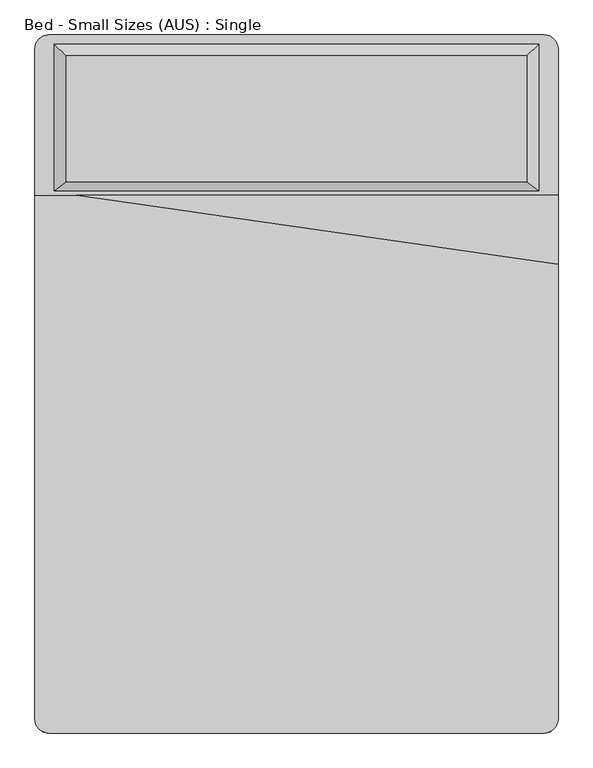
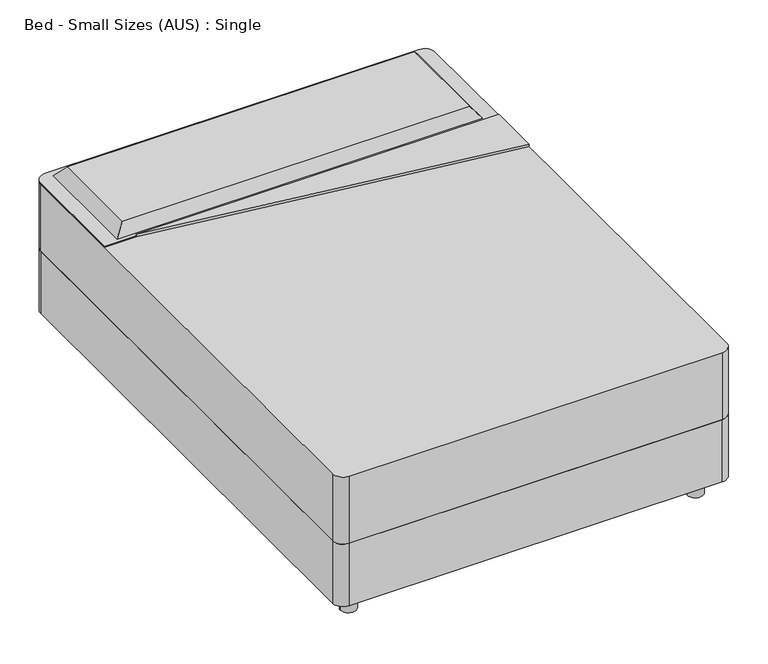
"""IFC4 building model written with IfcOpenShell, lengths in millimetres: furniture geometry, Bed - Small Sizes (AUS) : Single."""

from ifc_helpers import new_model, si_unit, point, frame, frame_2d, origin, origin_with_axes, place, context, project, spatial, polyline, circle_curve, trimmed, segment, composite_curve, outline, extrude, faceted_brep, source, transform, mapped, element, save


def bed_small_sizes_aus_single_3a526048(model_context):
    return source(origin(), model_context, "Body", "SolidModel", [
        faceted_brep([(637.3259905, -420.0, 650.0), (637.3259905, -60.0, 650.0), (-682.6740095, -60.0, 650.0), (-682.6740095, -420.0, 650.0), (672.4579512, -446.2118726, 605.0), (-717.5420488, -446.2118726, 605.0), (-717.5420488, -26.2118726, 605.0), (672.4579512, -26.2118726, 605.0)], [[[0, 1, 2, 3]], [[4, 5, 6, 7]], [[4, 7, 1, 0]], [[7, 6, 2, 1]], [[6, 5, 3, 2]], [[5, 4, 0, 3]]]),
        extrude(outline(composite_curve([segment(trimmed(circle_curve(frame_2d((-682.6740095, -90.0)), 30.0), [point((-712.6740095, -90.0))], [point((-652.6740095, -90.0))], False, "CARTESIAN"), True, "CONTINUOUS"), segment(trimmed(circle_curve(frame_2d((-682.6740095, -90.0)), 30.0), [point((-652.6740095, -90.0))], [point((-712.6740095, -90.0))], False, "CARTESIAN"), True, "CONTINUOUS")], self_intersect=False)), origin_with_axes(), (0.0, 0.0, 1.0), 80.0),
        extrude(outline(composite_curve([segment(trimmed(circle_curve(frame_2d((637.3259905, -90.0)), 30.0), [point((607.3259905, -90.0))], [point((667.3259905, -90.0))], False, "CARTESIAN"), True, "CONTINUOUS"), segment(trimmed(circle_curve(frame_2d((637.3259905, -90.0)), 30.0), [point((667.3259905, -90.0))], [point((607.3259905, -90.0))], False, "CARTESIAN"), True, "CONTINUOUS")], self_intersect=False)), origin_with_axes(), (0.0, 0.0, 1.0), 80.0),
        extrude(outline(composite_curve([segment(trimmed(circle_curve(frame_2d((-682.6740095, -1910.0)), 30.0), [point((-712.6740095, -1910.0))], [point((-652.6740095, -1910.0))], False, "CARTESIAN"), True, "CONTINUOUS"), segment(trimmed(circle_curve(frame_2d((-682.6740095, -1910.0)), 30.0), [point((-652.6740095, -1910.0))], [point((-712.6740095, -1910.0))], False, "CARTESIAN"), True, "CONTINUOUS")], self_intersect=False)), origin_with_axes(), (0.0, 0.0, 1.0), 80.0),
        extrude(outline(composite_curve([segment(trimmed(circle_curve(frame_2d((637.3259905, -1910.0)), 30.0), [point((607.3259905, -1910.0))], [point((667.3259905, -1910.0))], False, "CARTESIAN"), True, "CONTINUOUS"), segment(trimmed(circle_curve(frame_2d((637.3259905, -1910.0)), 30.0), [point((667.3259905, -1910.0))], [point((607.3259905, -1910.0))], False, "CARTESIAN"), True, "CONTINUOUS")], self_intersect=False)), origin_with_axes(), (0.0, 0.0, 1.0), 80.0),
        extrude(outline(composite_curve([segment(polyline([(687.3259905, -2000.0), (-732.6740095, -2000.0)]), True, "CONTINUOUS"), segment(trimmed(circle_curve(frame_2d((-732.6740095, -1960.0)), 40.0), [point((-732.6740095, -2000.0))], [point((-772.6740095, -1960.0))], False, "CARTESIAN"), True, "CONTINUOUS"), segment(polyline([(-772.6740095, -1960.0), (-772.6740095, -40.0)]), True, "CONTINUOUS"), segment(trimmed(circle_curve(frame_2d((-732.6740095, -40.0)), 40.0), [point((-772.6740095, -40.0))], [point((-732.6740095, 0.0))], False, "CARTESIAN"), True, "CONTINUOUS"), segment(polyline([(-732.6740095, 0.0), (687.3259905, 0.0)]), True, "CONTINUOUS"), segment(trimmed(circle_curve(frame_2d((687.3259905, -40.0)), 40.0), [point((687.3259905, 0.0))], [point((727.3259905, -40.0))], False, "CARTESIAN"), True, "CONTINUOUS"), segment(polyline([(727.3259905, -40.0), (727.3259905, -1960.0)]), True, "CONTINUOUS"), segment(trimmed(circle_curve(frame_2d((687.3259905, -1960.0)), 40.0), [point((727.3259905, -1960.0))], [point((687.3259905, -2000.0))], False, "CARTESIAN"), True, "CONTINUOUS")], self_intersect=False)), frame((0.0, 0.0, 80.0), z_axis=(0.0, 0.0, 1.0), x_axis=(1.0, 0.0, 0.0)), (0.0, 0.0, 1.0), 250.0),
        extrude(outline(composite_curve([segment(polyline([(727.3259905, -460.0), (-772.6740095, -460.0), (-772.6740095, -40.0)]), True, "CONTINUOUS"), segment(trimmed(circle_curve(frame_2d((-732.6740095, -40.0)), 40.0), [point((-772.6740095, -40.0))], [point((-732.6740095, 0.0))], False, "CARTESIAN"), True, "CONTINUOUS"), segment(polyline([(-732.6740095, 0.0), (687.3259905, 0.0)]), True, "CONTINUOUS"), segment(trimmed(circle_curve(frame_2d((687.3259905, -40.0)), 40.0), [point((687.3259905, 0.0))], [point((727.3259905, -40.0))], False, "CARTESIAN"), True, "CONTINUOUS"), segment(polyline([(727.3259905, -40.0), (727.3259905, -460.0)]), True, "CONTINUOUS")], self_intersect=False)), frame((0.0, 0.0, 600.0), z_axis=(0.0, 0.0, 1.0), x_axis=(1.0, 0.0, 0.0)), (0.0, 0.0, 1.0), 5.0),
        extrude(outline(polyline([(727.3259905, -460.0), (727.3259905, -657.6776024), (-652.6740095, -460.0), (727.3259905, -460.0)])), frame((0.0, 0.0, 600.0), z_axis=(0.0, 0.0, 1.0), x_axis=(1.0, 0.0, 0.0)), (0.0, 0.0, 1.0), 10.0),
        extrude(outline(composite_curve([segment(trimmed(circle_curve(frame_2d((-732.6740095, -40.0)), 40.0), [point((-772.6740095, -40.0))], [point((-732.6740095, 0.0))], False, "CARTESIAN"), True, "CONTINUOUS"), segment(polyline([(-732.6740095, 0.0), (687.3259905, 0.0)]), True, "CONTINUOUS"), segment(trimmed(circle_curve(frame_2d((687.3259905, -40.0)), 40.0), [point((687.3259905, 0.0))], [point((727.3259905, -40.0))], False, "CARTESIAN"), True, "CONTINUOUS"), segment(polyline([(727.3259905, -40.0), (727.3259905, -1960.0)]), True, "CONTINUOUS"), segment(trimmed(circle_curve(frame_2d((687.3259905, -1960.0)), 40.0), [point((727.3259905, -1960.0))], [point((687.3259905, -2000.0))], False, "CARTESIAN"), True, "CONTINUOUS"), segment(polyline([(687.3259905, -2000.0), (-732.6740095, -2000.0)]), True, "CONTINUOUS"), segment(trimmed(circle_curve(frame_2d((-732.6740095, -1960.0)), 40.0), [point((-732.6740095, -2000.0))], [point((-772.6740095, -1960.0))], False, "CARTESIAN"), True, "CONTINUOUS"), segment(polyline([(-772.6740095, -1960.0), (-772.6740095, -40.0)]), True, "CONTINUOUS")], self_intersect=False)), frame((0.0, 0.0, 330.0), z_axis=(0.0, 0.0, 1.0), x_axis=(1.0, 0.0, 0.0)), (0.0, 0.0, 1.0), 270.0),
    ])


if __name__ == "__main__":
    model = new_model("IFC4")
    model_context = context("Model", 3, world=origin())
    ifc_project = project(units=[si_unit("LENGTHUNIT", "METRE", prefix="MILLI")], contexts=[model_context])
    site = spatial("IfcSite", under=ifc_project)
    building = spatial("IfcBuilding", under=site)
    placement = place(None, origin())
    bed_small_sizes_aus_single_shape = bed_small_sizes_aus_single_3a526048(model_context)
    element("IfcFurniture", 1, ObjectType="Bed - Small Sizes (AUS) : Single", at=placement, inside=building, context=model_context, shape_type="MappedRepresentation", body=[
        mapped(bed_small_sizes_aus_single_shape, transform((0.0, 0.0, 0.0), x_axis=(1.0, 0.0, 0.0), y_axis=(0.0, 1.0, 0.0), z_axis=(0.0, 0.0, 1.0))),
    ])
    save(model, "model.ifc")
